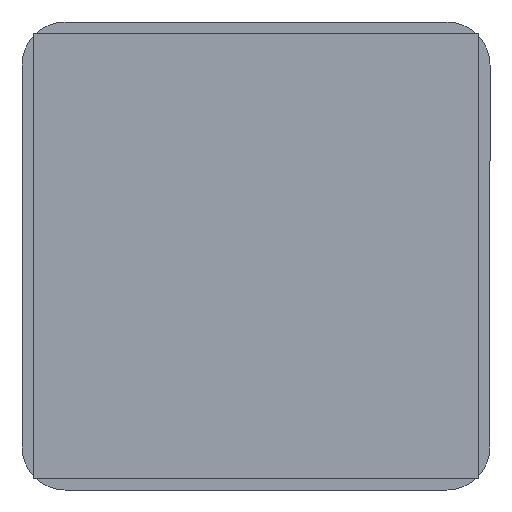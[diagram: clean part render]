
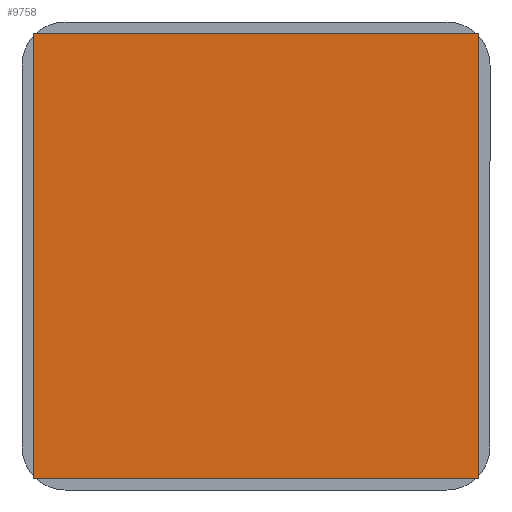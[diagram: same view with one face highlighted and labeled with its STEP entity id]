
A CAD part, front view. The second image highlights one B-rep face of the part: STEP entity #9758.
In plain terms, the highlighted planar face has unit normal (0, -1, 0).
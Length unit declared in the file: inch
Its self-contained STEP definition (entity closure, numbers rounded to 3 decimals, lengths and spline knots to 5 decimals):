
#115 = LINE ( 'NONE', #10305, #1883 ) ;
#368 = FACE_OUTER_BOUND ( 'NONE', #6301, .T. ) ;
#618 = CARTESIAN_POINT ( 'NONE',  ( 0.61024, -0.005, 0.61024 ) ) ;
#973 = ORIENTED_EDGE ( 'NONE', *, *, #3796, .F. ) ;
#1316 = PLANE ( 'NONE',  #3746 ) ;
#1883 = VECTOR ( 'NONE', #3340, 39.37008 ) ;
#1909 = CARTESIAN_POINT ( 'NONE',  ( -0.61024, -0.005, -0.61024 ) ) ;
#1957 = EDGE_CURVE ( 'NONE', #2913, #10281, #6324, .T. ) ;
#2071 = CARTESIAN_POINT ( 'NONE',  ( -0.61024, -0.005, -0.61024 ) ) ;
#2913 = VERTEX_POINT ( 'NONE', #1909 ) ;
#3340 = DIRECTION ( 'NONE',  ( -1., 0., 0. ) ) ;
#3746 = AXIS2_PLACEMENT_3D ( 'NONE', #9034, #9183, #4031 ) ;
#3796 = EDGE_CURVE ( 'NONE', #10281, #4957, #9032, .T. ) ;
#4031 = DIRECTION ( 'NONE',  ( 0., 0., 1. ) ) ;
#4855 = CARTESIAN_POINT ( 'NONE',  ( 0.61024, -0.005, -0.61024 ) ) ;
#4957 = VERTEX_POINT ( 'NONE', #618 ) ;
#5239 = ORIENTED_EDGE ( 'NONE', *, *, #8055, .F. ) ;
#5582 = CARTESIAN_POINT ( 'NONE',  ( -0.61024, -0.005, 0.61024 ) ) ;
#6301 = EDGE_LOOP ( 'NONE', ( #7825, #5239, #7590, #973 ) ) ;
#6324 = LINE ( 'NONE', #2071, #7462 ) ;
#7134 = VERTEX_POINT ( 'NONE', #4855 ) ;
#7234 = EDGE_CURVE ( 'NONE', #4957, #7134, #7653, .T. ) ;
#7462 = VECTOR ( 'NONE', #10641, 39.37008 ) ;
#7511 = VECTOR ( 'NONE', #10136, 39.37008 ) ;
#7590 = ORIENTED_EDGE ( 'NONE', *, *, #7234, .F. ) ;
#7653 = LINE ( 'NONE', #7708, #7511 ) ;
#7708 = CARTESIAN_POINT ( 'NONE',  ( 0.61024, -0.005, -0.61024 ) ) ;
#7825 = ORIENTED_EDGE ( 'NONE', *, *, #1957, .F. ) ;
#8055 = EDGE_CURVE ( 'NONE', #7134, #2913, #115, .T. ) ;
#8715 = DIRECTION ( 'NONE',  ( 1., 0., 0. ) ) ;
#9032 = LINE ( 'NONE', #5582, #9787 ) ;
#9034 = CARTESIAN_POINT ( 'NONE',  ( -0.61024, -0.005, 0.61024 ) ) ;
#9183 = DIRECTION ( 'NONE',  ( 0., 1., 0. ) ) ;
#9516 = CARTESIAN_POINT ( 'NONE',  ( -0.61024, -0.005, 0.61024 ) ) ;
#9758 = ADVANCED_FACE ( 'NONE', ( #368 ), #1316, .F. ) ;
#9787 = VECTOR ( 'NONE', #8715, 39.37008 ) ;
#10136 = DIRECTION ( 'NONE',  ( 0., 0., -1. ) ) ;
#10281 = VERTEX_POINT ( 'NONE', #9516 ) ;
#10305 = CARTESIAN_POINT ( 'NONE',  ( -0.61024, -0.005, -0.61024 ) ) ;
#10641 = DIRECTION ( 'NONE',  ( 0., 0., 1. ) ) ;
